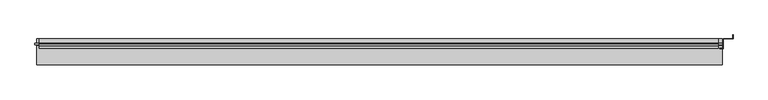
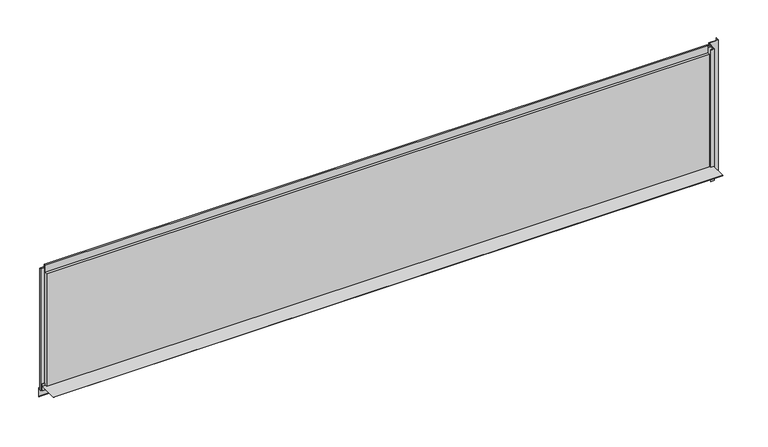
"""IFC4 building model written with IfcOpenShell, lengths in millimetres: plate geometry, Trimo_Qbiss Screen_Normal Panel-HORIZONTAL : HR - B."""

from ifc_helpers import new_model, si_unit, frame, origin, place, context, project, spatial, polyline, outline, extrude, source, transform, mapped, element, save


def plate_2ebe5be9(model_context):
    return source(origin(), model_context, "Body", "SweptSolid", [
        extrude(outline(polyline([(66.7, 14.0835797), (67.5, 14.0835797), (67.5, -23.0), (100.0, -25.8433816), (100.0, -76.0), (87.1509533, -63.1509533), (87.7166388, -62.5852679), (99.2, -74.0686292), (99.2, -26.5764465), (66.7, -23.7330649), (66.7, 1.0), (-32.5, 1.0), (-32.5, 1.8), (66.7, 1.8), (66.7, 14.0835797)])), frame((-1792.5, 0.0, 0.0), z_axis=(1.0, 0.0, 0.0), x_axis=(0.0, 1.0, 0.0)), (0.0, 0.0, 1.0), 3482.0),
        extrude(outline(polyline([(1692.5, 50.0), (1692.5, 100.0), (1742.5, 100.0), (1742.5, 118.5), (1743.3, 118.5), (1743.3, 99.2), (1693.3, 99.2), (1693.3, 49.2), (1675.0, 49.2), (1675.0, 50.0), (1692.5, 50.0)])), frame((0.0, 0.0, -76.0), z_axis=(0.0, 0.0, 1.0), x_axis=(1.0, 0.0, 0.0)), (0.0, 0.0, 1.0), 725.0),
        extrude(outline(polyline([(-1783.0, 76.5978162), (-1783.0, 67.8978162), (-1802.0, 67.8978162), (-1802.0, 76.5978162), (-1783.0, 76.5978162)])), frame((0.0, 0.0, -20.0), z_axis=(0.0, 0.0, 1.0), x_axis=(1.0, 0.0, 0.0)), (0.0, 0.0, 1.0), 669.0),
        extrude(outline(polyline([(1670.5, 67.8978162), (1670.5, 76.5978162), (1689.5, 76.5978162), (1689.5, 67.8978162), (1670.5, 67.8978162)])), frame((0.0, 0.0, -20.0), z_axis=(0.0, 0.0, 1.0), x_axis=(1.0, 0.0, 0.0)), (0.0, 0.0, 1.0), 669.0),
        extrude(outline(polyline([(1667.5, 76.0), (1667.5, 71.0), (-1780.0, 71.0), (-1780.0, 76.0), (1667.5, 76.0)])), frame((0.0, 0.0, 628.0), z_axis=(0.0, 0.0, 1.0), x_axis=(1.0, 0.0, 0.0)), (0.0, 0.0, 1.0), 21.0),
        extrude(outline(polyline([(71.0, 627.0), (100.0, 627.0), (100.0, 0.0), (72.0, 0.0), (72.0, 15.5), (62.0, 15.5), (62.0, 7.0), (50.0, 7.0), (50.0, 627.0), (63.0, 627.0), (63.0, 664.5), (71.0, 664.5), (71.0, 627.0)])), frame((-1780.0, 0.0, 0.0), z_axis=(1.0, 0.0, 0.0), x_axis=(0.0, 1.0, 0.0)), (0.0, 0.0, 1.0), 3447.5),
    ])


if __name__ == "__main__":
    model = new_model("IFC4")
    model_context = context("Model", 3, world=origin())
    ifc_project = project(units=[si_unit("LENGTHUNIT", "METRE", prefix="MILLI")], contexts=[model_context])
    site = spatial("IfcSite", under=ifc_project)
    building = spatial("IfcBuilding", under=site)
    placement = place(None, origin())
    plate_shape = plate_2ebe5be9(model_context)
    element("IfcPlate", 1, ObjectType="Trimo_Qbiss Screen_Normal Panel-HORIZONTAL : HR - B", at=placement, inside=building, context=model_context, shape_type="MappedRepresentation", body=[
        mapped(plate_shape, transform((0.0, 0.0, 0.0), x_axis=(1.0, 0.0, 0.0), y_axis=(0.0, 1.0, 0.0), z_axis=(0.0, 0.0, 1.0))),
    ])
    save(model, "model.ifc")
